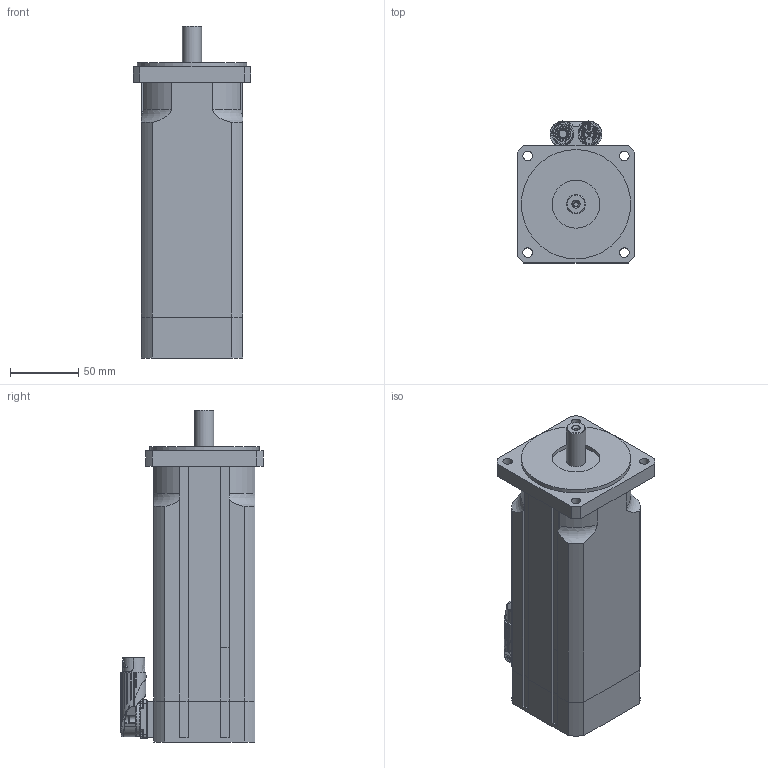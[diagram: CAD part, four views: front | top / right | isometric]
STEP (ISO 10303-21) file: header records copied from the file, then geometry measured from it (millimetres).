
FILE_DESCRIPTION(/* description */ ('Alibre Inc.'),/* implementation_level */ '2;1');
FILE_NAME(/* name */ 'export0',/* time_stamp */ '2011-09-09T12:35:17+02:00',/* author */ (''),/* organization */ (''),/* preprocessor_version */ 'ST-DEVELOPER v12',/* originating_system */ 'Alibre',/* authorisation */ '');
FILE_SCHEMA (('AUTOMOTIVE_DESIGN'));
Length unit declared in the file: millimetre
Products named in the file (4): ID_1
Bounding box: 86 x 104.2 x 243 mm (x, y, z)
Volume: 1184486 mm3; surface area: 101443.7 mm2
Topology: 3 solids, 4 shells, 1373 faces, 3376 edges, 2052 vertices
Faces by surface type: bspline 508, plane 364, cylinder 339, torus 86, cone 50, sphere 26
Full cylindrical faces by diameter (mm): 1 x21, 1.5 x1, 1.8 x2, 3.2 x4, 4 x1, 7.5 x1, 8 x1, 11.75 x1, 14 x1, 16.2 x1, 16.95 x1, 17.025 x1, 18.8 x1, 19.8 x1, 20 x1, 22.765 x1, 35 x1, 80 x1
Entity records: 69986 total; most frequent: CARTESIAN_POINT 41538, ORIENTED_EDGE 6300, DIRECTION 4763, EDGE_CURVE 3150, AXIS2_PLACEMENT_3D 2019, VERTEX_POINT 1996, EDGE_LOOP 1594, FACE_BOUND 1594
